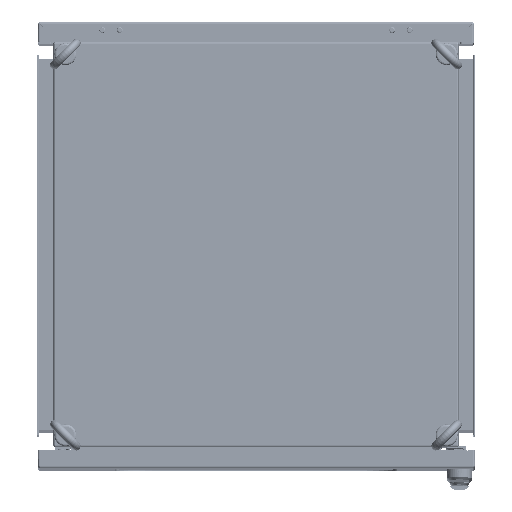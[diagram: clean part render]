
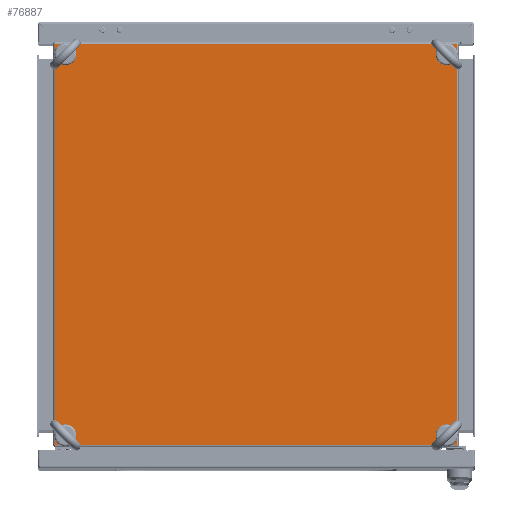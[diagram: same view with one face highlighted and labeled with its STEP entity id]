
A CAD part, top view. The second image highlights one B-rep face of the part: STEP entity #76887.
In plain terms, the highlighted planar face has unit normal (0, 0, 1).
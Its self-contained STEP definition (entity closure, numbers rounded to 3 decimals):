
#7725=LINE('',#122907,#15072);
#7726=LINE('',#122910,#15073);
#7727=LINE('',#122912,#15074);
#7728=LINE('',#122914,#15075);
#15072=VECTOR('',#99212,1000.);
#15073=VECTOR('',#99213,1000.);
#15074=VECTOR('',#99214,1000.);
#15075=VECTOR('',#99215,1000.);
#28477=ORIENTED_EDGE('',*,*,#44777,.F.);
#28478=ORIENTED_EDGE('',*,*,#44778,.F.);
#28479=ORIENTED_EDGE('',*,*,#44779,.F.);
#28480=ORIENTED_EDGE('',*,*,#44780,.F.);
#28481=ORIENTED_EDGE('',*,*,#44781,.T.);
#28482=ORIENTED_EDGE('',*,*,#44782,.F.);
#28483=ORIENTED_EDGE('',*,*,#44783,.T.);
#28484=ORIENTED_EDGE('',*,*,#44784,.T.);
#44777=EDGE_CURVE('',#53896,#53896,#58411,.T.);
#44778=EDGE_CURVE('',#53897,#53897,#58412,.T.);
#44779=EDGE_CURVE('',#53898,#53898,#58413,.T.);
#44780=EDGE_CURVE('',#53899,#53899,#58414,.T.);
#44781=EDGE_CURVE('',#53900,#53901,#7725,.T.);
#44782=EDGE_CURVE('',#53902,#53901,#7726,.F.);
#44783=EDGE_CURVE('',#53902,#53903,#7727,.T.);
#44784=EDGE_CURVE('',#53903,#53900,#7728,.T.);
#53896=VERTEX_POINT('',#122900);
#53897=VERTEX_POINT('',#122902);
#53898=VERTEX_POINT('',#122904);
#53899=VERTEX_POINT('',#122906);
#53900=VERTEX_POINT('',#122908);
#53901=VERTEX_POINT('',#122909);
#53902=VERTEX_POINT('',#122911);
#53903=VERTEX_POINT('',#122913);
#58411=CIRCLE('',#85359,6.5);
#58412=CIRCLE('',#85360,6.5);
#58413=CIRCLE('',#85361,6.5);
#58414=CIRCLE('',#85362,6.5);
#63282=EDGE_LOOP('',(#28477));
#63283=EDGE_LOOP('',(#28478));
#63284=EDGE_LOOP('',(#28479));
#63285=EDGE_LOOP('',(#28480));
#63286=EDGE_LOOP('',(#28481,#28482,#28483,#28484));
#69438=FACE_BOUND('',#63282,.T.);
#69439=FACE_BOUND('',#63283,.T.);
#69440=FACE_BOUND('',#63284,.T.);
#69441=FACE_BOUND('',#63285,.T.);
#69442=FACE_BOUND('',#63286,.T.);
#73876=PLANE('',#85358);
#76887=ADVANCED_FACE('',(#69438,#69439,#69440,#69441,#69442),#73876,.F.);
#85358=AXIS2_PLACEMENT_3D('',#122898,#99202,#99203);
#85359=AXIS2_PLACEMENT_3D('',#122899,#99204,#99205);
#85360=AXIS2_PLACEMENT_3D('',#122901,#99206,#99207);
#85361=AXIS2_PLACEMENT_3D('',#122903,#99208,#99209);
#85362=AXIS2_PLACEMENT_3D('',#122905,#99210,#99211);
#99202=DIRECTION('',(0.,0.,-1.));
#99203=DIRECTION('',(-1.,0.,0.));
#99204=DIRECTION('',(0.,0.,1.));
#99205=DIRECTION('',(1.,0.,0.));
#99206=DIRECTION('',(0.,0.,1.));
#99207=DIRECTION('',(1.,0.,0.));
#99208=DIRECTION('',(0.,0.,1.));
#99209=DIRECTION('',(1.,0.,0.));
#99210=DIRECTION('',(0.,0.,1.));
#99211=DIRECTION('',(1.,0.,0.));
#99212=DIRECTION('',(0.,-1.,0.));
#99213=DIRECTION('',(1.,0.,0.));
#99214=DIRECTION('',(0.,1.,0.));
#99215=DIRECTION('',(-1.,0.,0.));
#122898=CARTESIAN_POINT('',(0.,0.,0.));
#122899=CARTESIAN_POINT('',(260.5,260.5,0.));
#122900=CARTESIAN_POINT('',(267.,260.5,0.));
#122901=CARTESIAN_POINT('',(-260.5,260.5,0.));
#122902=CARTESIAN_POINT('',(-254.,260.5,0.));
#122903=CARTESIAN_POINT('',(260.5,-260.5,0.));
#122904=CARTESIAN_POINT('',(267.,-260.5,0.));
#122905=CARTESIAN_POINT('',(-260.5,-260.5,0.));
#122906=CARTESIAN_POINT('',(-254.,-260.5,0.));
#122907=CARTESIAN_POINT('',(-274.2,274.2,0.));
#122908=CARTESIAN_POINT('',(-274.2,274.2,0.));
#122909=CARTESIAN_POINT('',(-274.2,-274.2,0.));
#122910=CARTESIAN_POINT('',(274.2,-274.2,0.));
#122911=CARTESIAN_POINT('',(274.2,-274.2,0.));
#122912=CARTESIAN_POINT('',(274.2,-274.2,0.));
#122913=CARTESIAN_POINT('',(274.2,274.2,0.));
#122914=CARTESIAN_POINT('',(274.2,274.2,0.));
